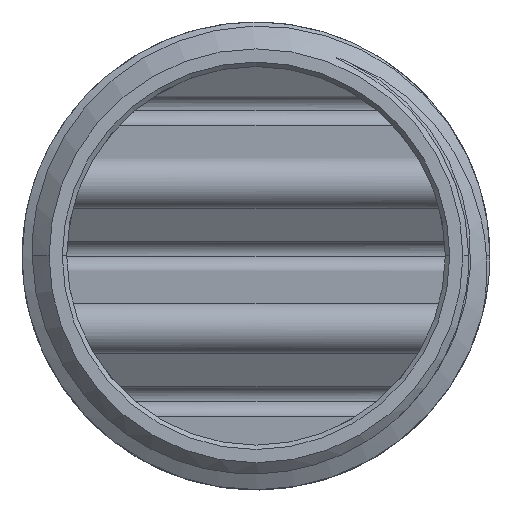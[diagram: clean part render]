
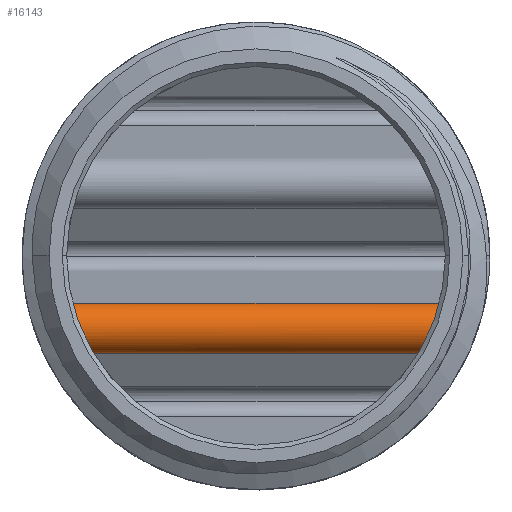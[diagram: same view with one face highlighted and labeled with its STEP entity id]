
A CAD part, top view. The second image highlights one B-rep face of the part: STEP entity #16143.
In plain terms, the highlighted cylindrical face has radius 1.492 mm (diameter 2.984 mm), a partial arc.
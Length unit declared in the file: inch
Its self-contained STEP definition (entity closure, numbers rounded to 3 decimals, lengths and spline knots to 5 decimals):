
#12 = CYLINDRICAL_SURFACE ( 'NONE', #6806, 0.05875 ) ;
#1253 = DIRECTION ( 'NONE',  ( 1., 0., 0. ) ) ;
#1403 = VERTEX_POINT ( 'NONE', #2687 ) ;
#2142 = CARTESIAN_POINT ( 'NONE',  ( -0.36831, -0.22193, -0.04423 ) ) ;
#2173 = CARTESIAN_POINT ( 'NONE',  ( -0.37755, -0.20589, -0.0161 ) ) ;
#2192 = EDGE_CURVE ( 'NONE', #15304, #1403, #11483, .T. ) ;
#2268 = CARTESIAN_POINT ( 'NONE',  ( -0.415, -0.11264, -0.03128 ) ) ;
#2687 = CARTESIAN_POINT ( 'NONE',  ( -0.4162, -0.10807, -0.04423 ) ) ;
#2917 = CARTESIAN_POINT ( 'NONE',  ( 0.41289, -0.12015, -0.0202 ) ) ;
#3089 = LINE ( 'NONE', #7574, #7801 ) ;
#3480 = CARTESIAN_POINT ( 'NONE',  ( -0.41289, -0.12016, -0.0202 ) ) ;
#3868 = CARTESIAN_POINT ( 'NONE',  ( -0.37095, -0.21752, -0.03162 ) ) ;
#3987 = CARTESIAN_POINT ( 'NONE',  ( -1.06, -0.10807, -0.04423 ) ) ;
#4210 = CARTESIAN_POINT ( 'NONE',  ( 0.38556, -0.19049, -0.00545 ) ) ;
#4814 = EDGE_CURVE ( 'NONE', #1403, #5287, #11490, .T. ) ;
#5080 = CARTESIAN_POINT ( 'NONE',  ( -0.4162, -0.10807, -0.04423 ) ) ;
#5287 = VERTEX_POINT ( 'NONE', #14360 ) ;
#5719 = CARTESIAN_POINT ( 'NONE',  ( 0.4162, -0.10807, -0.04423 ) ) ;
#5770 = EDGE_CURVE ( 'NONE', #15304, #15575, #3089, .T. ) ;
#6052 = FACE_OUTER_BOUND ( 'NONE', #19720, .T. ) ;
#6770 = CARTESIAN_POINT ( 'NONE',  ( -0.39119, -0.17864, -0.00127 ) ) ;
#6806 = AXIS2_PLACEMENT_3D ( 'NONE', #12566, #9243, #18747 ) ;
#6869 = CARTESIAN_POINT ( 'NONE',  ( -0.40614, -0.14141, -0.00456 ) ) ;
#7574 = CARTESIAN_POINT ( 'NONE',  ( -1.06, -0.22193, -0.04423 ) ) ;
#7801 = VECTOR ( 'NONE', #1253, 39.37008 ) ;
#8166 = ORIENTED_EDGE ( 'NONE', *, *, #5770, .T. ) ;
#8283 = CARTESIAN_POINT ( 'NONE',  ( -0.3992, -0.15996, 0.00012 ) ) ;
#8481 = CARTESIAN_POINT ( 'NONE',  ( -0.40814, -0.13548, -0.00753 ) ) ;
#9121 = CARTESIAN_POINT ( 'NONE',  ( 0.37755, -0.20589, -0.01609 ) ) ;
#9243 = DIRECTION ( 'NONE',  ( 1., 0., 0. ) ) ;
#10086 = DIRECTION ( 'NONE',  ( 1., 0., 0. ) ) ;
#10324 = CARTESIAN_POINT ( 'NONE',  ( 0.36831, -0.22193, -0.04423 ) ) ;
#10605 = CARTESIAN_POINT ( 'NONE',  ( 0.40183, -0.15369, 0.00026 ) ) ;
#11361 = VECTOR ( 'NONE', #10086, 39.37008 ) ;
#11478 = CARTESIAN_POINT ( 'NONE',  ( -0.38282, -0.1959, -0.00839 ) ) ;
#11483 = B_SPLINE_CURVE_WITH_KNOTS ( 'NONE', 3,
 ( #15947, #14524, #3868, #14222, #2173, #11478, #12793, #6770, #17468, #8283, #12698, #6869, #8481, #19184, #3480, #2268, #18977, #5080 ),
 .UNSPECIFIED., .F., .F.,
 ( 4, 2, 2, 2, 2, 2, 2, 2, 4 ),
 ( 0., 0.00052, 0.00103, 0.00155, 0.00206, 0.00258, 0.0031, 0.00361, 0.00413 ),
 .UNSPECIFIED. ) ;
#11490 = LINE ( 'NONE', #3987, #11361 ) ;
#11822 = CARTESIAN_POINT ( 'NONE',  ( 0.41152, -0.12482, -0.01538 ) ) ;
#12110 = B_SPLINE_CURVE_WITH_KNOTS ( 'NONE', 3,
 ( #5719, #16693, #13657, #2917, #11822, #18406, #10605, #16907, #18004, #4210, #16803, #9121, #15275, #13754, #15372, #10324 ),
 .UNSPECIFIED., .F., .F.,
 ( 4, 2, 2, 2, 2, 2, 2, 4 ),
 ( 0., 0.00052, 0.00103, 0.00206, 0.00258, 0.0031, 0.00361, 0.00413 ),
 .UNSPECIFIED. ) ;
#12566 = CARTESIAN_POINT ( 'NONE',  ( -1.06, -0.165, -0.05875 ) ) ;
#12698 = CARTESIAN_POINT ( 'NONE',  ( -0.40167, -0.15365, -0.00075 ) ) ;
#12793 = CARTESIAN_POINT ( 'NONE',  ( -0.38559, -0.19043, -0.00542 ) ) ;
#12888 = EDGE_CURVE ( 'NONE', #5287, #15575, #12110, .T. ) ;
#13636 = ORIENTED_EDGE ( 'NONE', *, *, #12888, .F. ) ;
#13657 = CARTESIAN_POINT ( 'NONE',  ( 0.41503, -0.11256, -0.03141 ) ) ;
#13754 = CARTESIAN_POINT ( 'NONE',  ( 0.37099, -0.21744, -0.03149 ) ) ;
#14222 = CARTESIAN_POINT ( 'NONE',  ( -0.3751, -0.21027, -0.02074 ) ) ;
#14360 = CARTESIAN_POINT ( 'NONE',  ( 0.4162, -0.10807, -0.04423 ) ) ;
#14524 = CARTESIAN_POINT ( 'NONE',  ( -0.36932, -0.22024, -0.03763 ) ) ;
#15275 = CARTESIAN_POINT ( 'NONE',  ( 0.37511, -0.21027, -0.02075 ) ) ;
#15304 = VERTEX_POINT ( 'NONE', #2142 ) ;
#15372 = CARTESIAN_POINT ( 'NONE',  ( 0.36932, -0.22024, -0.03763 ) ) ;
#15575 = VERTEX_POINT ( 'NONE', #19936 ) ;
#15947 = CARTESIAN_POINT ( 'NONE',  ( -0.36831, -0.22193, -0.04423 ) ) ;
#16143 = ADVANCED_FACE ( 'NONE', ( #6052 ), #12, .T. ) ;
#16693 = CARTESIAN_POINT ( 'NONE',  ( 0.41576, -0.10977, -0.03758 ) ) ;
#16791 = ORIENTED_EDGE ( 'NONE', *, *, #4814, .F. ) ;
#16803 = CARTESIAN_POINT ( 'NONE',  ( 0.38281, -0.19592, -0.0084 ) ) ;
#16907 = CARTESIAN_POINT ( 'NONE',  ( 0.39391, -0.17258, -0.00015 ) ) ;
#17468 = CARTESIAN_POINT ( 'NONE',  ( -0.39392, -0.17256, -0.00015 ) ) ;
#18004 = CARTESIAN_POINT ( 'NONE',  ( 0.39117, -0.17869, -0.00128 ) ) ;
#18354 = ORIENTED_EDGE ( 'NONE', *, *, #2192, .F. ) ;
#18406 = CARTESIAN_POINT ( 'NONE',  ( 0.40644, -0.14082, -0.00359 ) ) ;
#18747 = DIRECTION ( 'NONE',  ( 0., 0., -1. ) ) ;
#18977 = CARTESIAN_POINT ( 'NONE',  ( -0.41576, -0.10977, -0.03758 ) ) ;
#19184 = CARTESIAN_POINT ( 'NONE',  ( -0.4115, -0.12491, -0.01531 ) ) ;
#19720 = EDGE_LOOP ( 'NONE', ( #8166, #13636, #16791, #18354 ) ) ;
#19936 = CARTESIAN_POINT ( 'NONE',  ( 0.36831, -0.22193, -0.04423 ) ) ;
